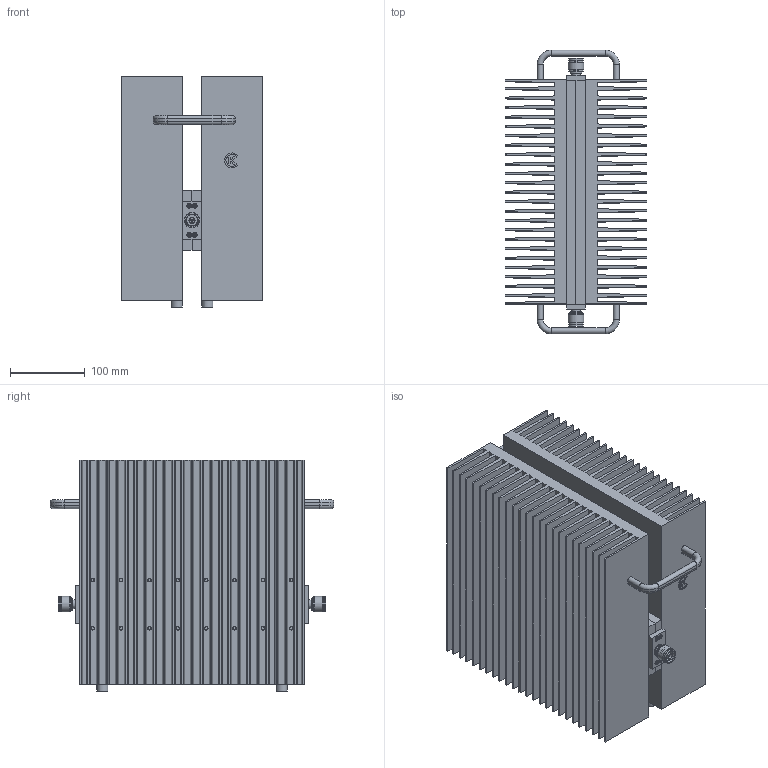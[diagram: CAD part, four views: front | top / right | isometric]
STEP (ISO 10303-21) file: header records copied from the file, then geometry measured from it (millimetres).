
FILE_DESCRIPTION(('STEP AP203'), '1');
FILE_NAME('ÏÐ1-25-1000', '', ('UNSPECIFIED'), ('UNSPECIFIED'), 'C3D Converter', 'C3D Toolkit', '');
FILE_SCHEMA(('CONFIG_CONTROL_DESIGN'));
Length unit declared in the file: millimetre
Products named in the file (16): -01
Assembly tree (53 placements, depth 3):
  (unnamed)
    (unnamed)
    (unnamed)
    (unnamed)  x2
    (unnamed)  x2
    (unnamed)  x2
    (unnamed)
      (unnamed)
      (unnamed)
      (unnamed)  x10
    (unnamed)  x4
    (unnamed)  x16
    (unnamed)  x2
    (unnamed)  x8
    (unnamed)
    -01
Bounding box: 189 x 380 x 310 mm (x, y, z)
Volume: 6918487.4 mm3; surface area: 2555285.5 mm2
Topology: 52 solids, 52 shells, 1198 faces, 2844 edges, 1842 vertices
Faces by surface type: plane 736, cylinder 286, torus 90, cone 86
Full cylindrical faces by diameter (mm): 1.65 x2, 3 x16, 3.04 x2, 3.242 x8, 4.917 x26, 5 x14, 5.5 x12, 6 x16, 6.2 x16, 6.5 x50, 7 x2, 8.04 x2, 8.5 x18, 9 x2, 10 x16, 11 x26, 11.6 x2, 12.7 x2, 14.94 x2, 15 x4, 15.75 x2, 16 x4, 16.5 x2, 17.46 x2, 17.8 x2, 19.8 x6, 20.85 x2
Entity records: 25035 total; most frequent: CARTESIAN_POINT 4229, DIRECTION 3134, ORIENTED_EDGE 2788, EDGE_CURVE 1394, AXIS2_PLACEMENT_3D 1141, EDGE_LOOP 1072, VERTEX_POINT 1046, LINE 852
